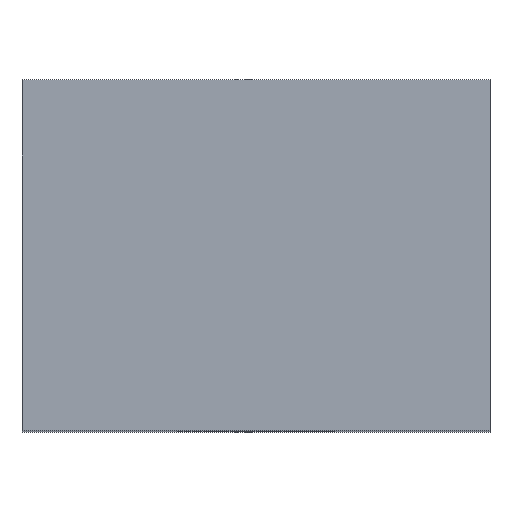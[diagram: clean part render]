
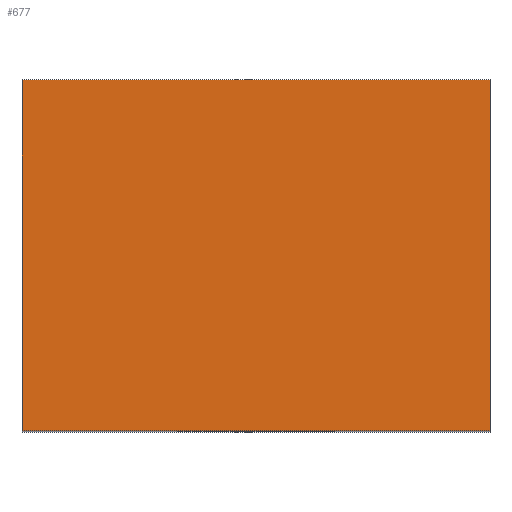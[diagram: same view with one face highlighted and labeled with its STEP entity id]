
A CAD part, top view. The second image highlights one B-rep face of the part: STEP entity #677.
In plain terms, the highlighted planar face has unit normal (0, 0, 1).
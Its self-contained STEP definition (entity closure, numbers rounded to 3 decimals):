
#24 = VERTEX_POINT('',#25);
#25 = CARTESIAN_POINT('',(46.,8.,-2.));
#32 = PLANE('',#33);
#33 = AXIS2_PLACEMENT_3D('',#34,#35,#36);
#34 = CARTESIAN_POINT('',(46.,8.,-16.));
#35 = DIRECTION('',(-1.,-0.,-0.));
#36 = DIRECTION('',(0.,0.,-1.));
#44 = PLANE('',#45);
#45 = AXIS2_PLACEMENT_3D('',#46,#47,#48);
#46 = CARTESIAN_POINT('',(46.,8.,-16.));
#47 = DIRECTION('',(-0.,1.,-0.));
#48 = DIRECTION('',(0.,0.,-1.));
#141 = VERTEX_POINT('',#142);
#142 = CARTESIAN_POINT('',(46.,14.,-2.));
#156 = PLANE('',#157);
#157 = AXIS2_PLACEMENT_3D('',#158,#159,#160);
#158 = CARTESIAN_POINT('',(46.,14.,-4.));
#159 = DIRECTION('',(-0.,1.,0.));
#160 = DIRECTION('',(0.,0.,-1.));
#168 = EDGE_CURVE('',#24,#141,#169,.T.);
#169 = SURFACE_CURVE('',#170,(#174,#181),.PCURVE_S1.);
#170 = LINE('',#171,#172);
#171 = CARTESIAN_POINT('',(46.,8.,-2.));
#172 = VECTOR('',#173,1.);
#173 = DIRECTION('',(-0.,1.,-0.));
#174 = PCURVE('',#32,#175);
#175 = DEFINITIONAL_REPRESENTATION('',(#176),#180);
#176 = LINE('',#177,#178);
#177 = CARTESIAN_POINT('',(-14.,-0.));
#178 = VECTOR('',#179,1.);
#179 = DIRECTION('',(-0.,-1.));
#180 = ( GEOMETRIC_REPRESENTATION_CONTEXT(2) 
PARAMETRIC_REPRESENTATION_CONTEXT() REPRESENTATION_CONTEXT('2D SPACE',''
  ) );
#181 = PCURVE('',#182,#187);
#182 = PLANE('',#183);
#183 = AXIS2_PLACEMENT_3D('',#184,#185,#186);
#184 = CARTESIAN_POINT('',(46.,8.,-2.));
#185 = DIRECTION('',(-0.,-0.,1.));
#186 = DIRECTION('',(1.,0.,0.));
#187 = DEFINITIONAL_REPRESENTATION('',(#188),#192);
#188 = LINE('',#189,#190);
#189 = CARTESIAN_POINT('',(0.,-0.));
#190 = VECTOR('',#191,1.);
#191 = DIRECTION('',(-0.,1.));
#192 = ( GEOMETRIC_REPRESENTATION_CONTEXT(2) 
PARAMETRIC_REPRESENTATION_CONTEXT() REPRESENTATION_CONTEXT('2D SPACE',''
  ) );
#200 = VERTEX_POINT('',#201);
#201 = CARTESIAN_POINT('',(38.,8.,-2.));
#215 = PLANE('',#216);
#216 = AXIS2_PLACEMENT_3D('',#217,#218,#219);
#217 = CARTESIAN_POINT('',(38.,8.,-16.));
#218 = DIRECTION('',(-1.,-0.,-0.));
#219 = DIRECTION('',(0.,0.,-1.));
#249 = EDGE_CURVE('',#24,#200,#250,.T.);
#250 = SURFACE_CURVE('',#251,(#255,#262),.PCURVE_S1.);
#251 = LINE('',#252,#253);
#252 = CARTESIAN_POINT('',(46.,8.,-2.));
#253 = VECTOR('',#254,1.);
#254 = DIRECTION('',(-1.,-0.,0.));
#255 = PCURVE('',#44,#256);
#256 = DEFINITIONAL_REPRESENTATION('',(#257),#261);
#257 = LINE('',#258,#259);
#258 = CARTESIAN_POINT('',(-14.,-0.));
#259 = VECTOR('',#260,1.);
#260 = DIRECTION('',(-0.,1.));
#261 = ( GEOMETRIC_REPRESENTATION_CONTEXT(2) 
PARAMETRIC_REPRESENTATION_CONTEXT() REPRESENTATION_CONTEXT('2D SPACE',''
  ) );
#262 = PCURVE('',#182,#263);
#263 = DEFINITIONAL_REPRESENTATION('',(#264),#268);
#264 = LINE('',#265,#266);
#265 = CARTESIAN_POINT('',(0.,-0.));
#266 = VECTOR('',#267,1.);
#267 = DIRECTION('',(-1.,0.));
#268 = ( GEOMETRIC_REPRESENTATION_CONTEXT(2) 
PARAMETRIC_REPRESENTATION_CONTEXT() REPRESENTATION_CONTEXT('2D SPACE',''
  ) );
#634 = EDGE_CURVE('',#141,#635,#637,.T.);
#635 = VERTEX_POINT('',#636);
#636 = CARTESIAN_POINT('',(38.,14.,-2.));
#637 = SURFACE_CURVE('',#638,(#642,#649),.PCURVE_S1.);
#638 = LINE('',#639,#640);
#639 = CARTESIAN_POINT('',(46.,14.,-2.));
#640 = VECTOR('',#641,1.);
#641 = DIRECTION('',(-1.,-0.,0.));
#642 = PCURVE('',#156,#643);
#643 = DEFINITIONAL_REPRESENTATION('',(#644),#648);
#644 = LINE('',#645,#646);
#645 = CARTESIAN_POINT('',(-2.,-0.));
#646 = VECTOR('',#647,1.);
#647 = DIRECTION('',(-0.,1.));
#648 = ( GEOMETRIC_REPRESENTATION_CONTEXT(2) 
PARAMETRIC_REPRESENTATION_CONTEXT() REPRESENTATION_CONTEXT('2D SPACE',''
  ) );
#649 = PCURVE('',#182,#650);
#650 = DEFINITIONAL_REPRESENTATION('',(#651),#655);
#651 = LINE('',#652,#653);
#652 = CARTESIAN_POINT('',(0.,6.));
#653 = VECTOR('',#654,1.);
#654 = DIRECTION('',(-1.,0.));
#655 = ( GEOMETRIC_REPRESENTATION_CONTEXT(2) 
PARAMETRIC_REPRESENTATION_CONTEXT() REPRESENTATION_CONTEXT('2D SPACE',''
  ) );
#677 = ADVANCED_FACE('',(#678),#182,.T.);
#678 = FACE_BOUND('',#679,.F.);
#679 = EDGE_LOOP('',(#680,#681,#682,#703));
#680 = ORIENTED_EDGE('',*,*,#168,.F.);
#681 = ORIENTED_EDGE('',*,*,#249,.T.);
#682 = ORIENTED_EDGE('',*,*,#683,.F.);
#683 = EDGE_CURVE('',#635,#200,#684,.T.);
#684 = SURFACE_CURVE('',#685,(#689,#696),.PCURVE_S1.);
#685 = LINE('',#686,#687);
#686 = CARTESIAN_POINT('',(38.,14.,-2.));
#687 = VECTOR('',#688,1.);
#688 = DIRECTION('',(-0.,-1.,-0.));
#689 = PCURVE('',#182,#690);
#690 = DEFINITIONAL_REPRESENTATION('',(#691),#695);
#691 = LINE('',#692,#693);
#692 = CARTESIAN_POINT('',(-8.,6.));
#693 = VECTOR('',#694,1.);
#694 = DIRECTION('',(-0.,-1.));
#695 = ( GEOMETRIC_REPRESENTATION_CONTEXT(2) 
PARAMETRIC_REPRESENTATION_CONTEXT() REPRESENTATION_CONTEXT('2D SPACE',''
  ) );
#696 = PCURVE('',#215,#697);
#697 = DEFINITIONAL_REPRESENTATION('',(#698),#702);
#698 = LINE('',#699,#700);
#699 = CARTESIAN_POINT('',(-14.,-6.));
#700 = VECTOR('',#701,1.);
#701 = DIRECTION('',(-0.,1.));
#702 = ( GEOMETRIC_REPRESENTATION_CONTEXT(2) 
PARAMETRIC_REPRESENTATION_CONTEXT() REPRESENTATION_CONTEXT('2D SPACE',''
  ) );
#703 = ORIENTED_EDGE('',*,*,#634,.F.);
